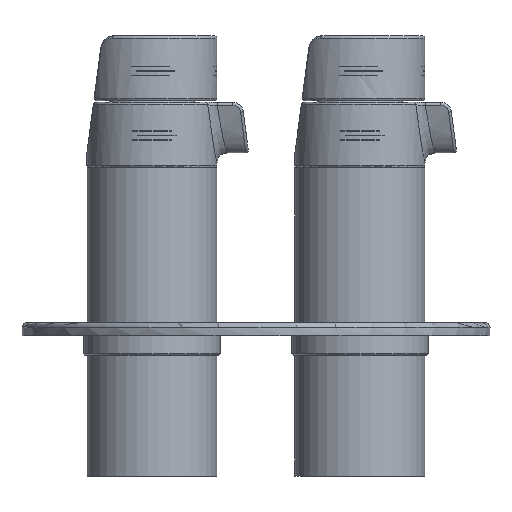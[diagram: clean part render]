
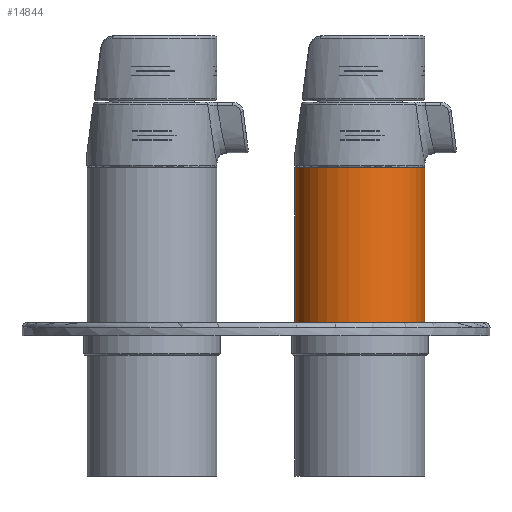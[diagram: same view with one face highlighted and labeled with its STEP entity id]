
A CAD part, left-side view. The second image highlights one B-rep face of the part: STEP entity #14844.
In plain terms, the highlighted cylindrical face has radius 25 mm (diameter 50 mm), a full revolution.
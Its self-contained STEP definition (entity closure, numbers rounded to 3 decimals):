
#135=CYLINDRICAL_SURFACE('',#15797,25.);
#334=FACE_BOUND('',#2992,.T.);
#1128=CIRCLE('',#15704,25.);
#1138=CIRCLE('',#15796,25.);
#1965=FACE_OUTER_BOUND('',#2991,.T.);
#2991=EDGE_LOOP('',(#12649));
#2992=EDGE_LOOP('',(#12650));
#6753=VERTEX_POINT('',#26758);
#6875=VERTEX_POINT('',#27140);
#8624=EDGE_CURVE('',#6753,#6753,#1128,.T.);
#8802=EDGE_CURVE('',#6875,#6875,#1138,.T.);
#12649=ORIENTED_EDGE('',*,*,#8624,.T.);
#12650=ORIENTED_EDGE('',*,*,#8802,.F.);
#14844=ADVANCED_FACE('',(#1965,#334),#135,.T.);
#15704=AXIS2_PLACEMENT_3D('',#26759,#18585,#18586);
#15796=AXIS2_PLACEMENT_3D('',#27141,#18937,#18938);
#15797=AXIS2_PLACEMENT_3D('',#27142,#18939,#18940);
#18585=DIRECTION('center_axis',(0.,0.,
1.));
#18586=DIRECTION('ref_axis',(-1.,0.,0.));
#18937=DIRECTION('center_axis',(0.,0.,
1.));
#18938=DIRECTION('ref_axis',(1.,0.,0.));
#18939=DIRECTION('center_axis',(0.,0.,
1.));
#18940=DIRECTION('ref_axis',(-1.,0.,0.));
#26758=CARTESIAN_POINT('',(52.804,-49.215,5.));
#26759=CARTESIAN_POINT('Origin',(27.804,-49.215,5.));
#27140=CARTESIAN_POINT('',(2.804,-49.215,64.576));
#27141=CARTESIAN_POINT('Origin',(27.804,-49.215,64.576));
#27142=CARTESIAN_POINT('Origin',(27.804,-49.215,5.376));
